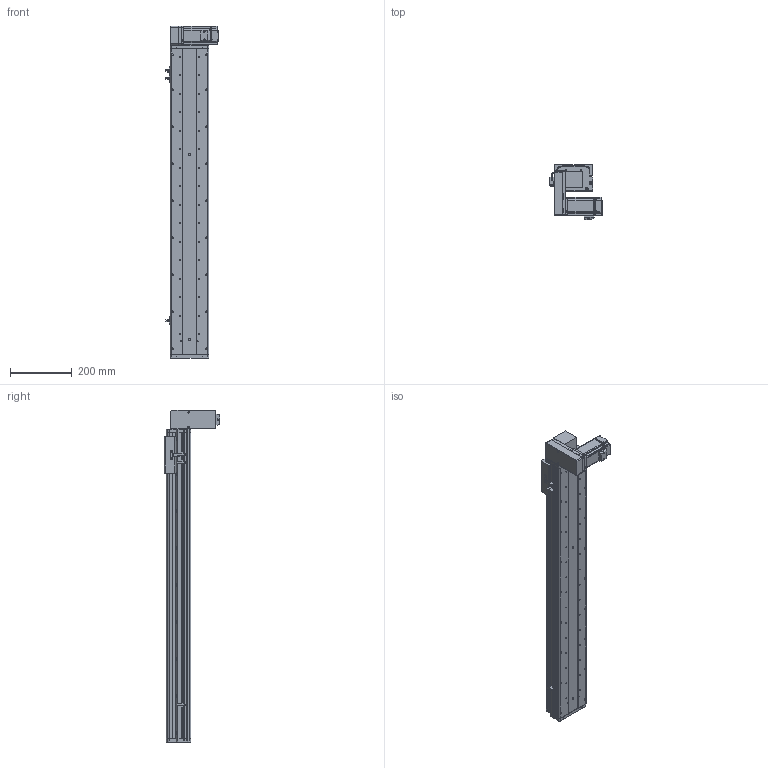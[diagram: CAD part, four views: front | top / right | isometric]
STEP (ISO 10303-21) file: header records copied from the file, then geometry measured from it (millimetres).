
FILE_DESCRIPTION (( 'STEP AP214' ), '1' );
FILE_NAME ('KSD125B-S800-MRD-CM.STEP', '2017-10-21T06:12:18', ( '微软用户' ), ( '微软中国' ), 'SwSTEP 2.0', 'SolidWorks 2014', '' );
FILE_SCHEMA (( 'AUTOMOTIVE_DESIGN' ));
Length unit declared in the file: millimetre
Products named in the file (17): 前端板-125宽模组同步带; 125模组同步带-尾端板1; KSD125模组同步带-滑动座1; KSD125B-S800-MRD-CM; 悵誘欶奻狟殏; HTPA30S3M150_A_H6_a佪裝蚚; HTPA30S3M150_A_H6_a萇儂蚚; 100宽马达安装板连板上下折丝杆同步带; KSD125模组800行程同步带-防尘盖; 125模组800行程同步带-底板; MHMD042G1CA_2_03; KSD125模组同步带-防撞垫2; 覜茼え68遵圉猾敕; U倰嫖萇假蚾璃; U倰嫖萇EEㄜSX672; KSD125模组同步带-防撞垫1; 100宽马达安装板同步带右
Assembly tree (20 placements, depth 2):
  KSD125B-S800-MRD-CM
    KSD125模组同步带-滑动座1
    125模组同步带-尾端板1
    前端板-125宽模组同步带
    100宽马达安装板同步带右
    KSD125模组同步带-防撞垫1
    U倰嫖萇EEㄜSX672  x3
    U倰嫖萇假蚾璃  x3
    覜茼え68遵圉猾敕
    KSD125模组同步带-防撞垫2
    MHMD042G1CA_2_03
    125模组800行程同步带-底板
    KSD125模组800行程同步带-防尘盖
    100宽马达安装板连板上下折丝杆同步带
    HTPA30S3M150_A_H6_a萇儂蚚
    HTPA30S3M150_A_H6_a佪裝蚚
    悵誘欶奻狟殏
Bounding box: 168.7 x 179.5 x 1077 mm (x, y, z)
Volume: 3390917.4 mm3; surface area: 1152975.8 mm2
Topology: 19 solids, 22 shells, 2289 faces, 6631 edges, 4382 vertices
Faces by surface type: cylinder 1436, plane 726, cone 105, bspline 22
Entity records: 81401 total; most frequent: CARTESIAN_POINT 16077, DIRECTION 12656, ORIENTED_EDGE 11782, EDGE_CURVE 5969, AXIS2_PLACEMENT_3D 4893, VERTEX_POINT 3974, LINE 2870, VECTOR 2870
